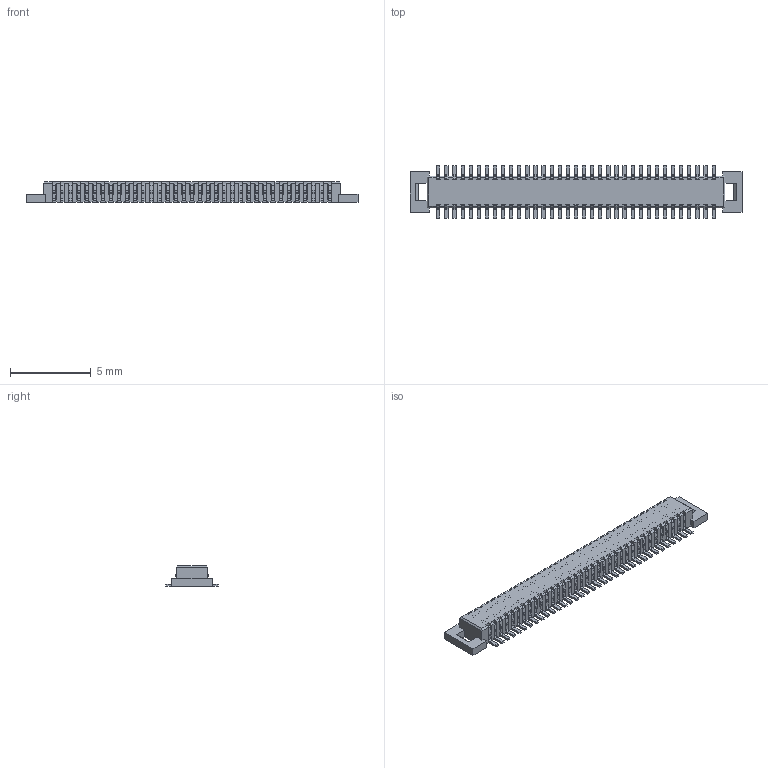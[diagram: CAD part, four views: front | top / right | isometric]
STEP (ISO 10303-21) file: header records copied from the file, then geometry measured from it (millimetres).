
FILE_DESCRIPTION(('CATIA V5 STEP Exchange'),'2;1');
FILE_NAME('F:\黄富鸿\板对板\0.5 单槽\无柱\公座\H1.28\HC-PBB05-1-70-M-H1.28-G1-R-06 (BTB0.5 单槽 公座 立贴 编带)-HCTL.stp','2026-01-20T07:29:25+00:00',('none'),('none'),'CATIA Version 5 Release 20 GA (IN-10)','CATIA V5 STEP AP203','none');
FILE_SCHEMA(('CONFIG_CONTROL_DESIGN'));
Products named in the file (1): Part1
Bounding box: 20.5 x 3.24 x 1.28 mm (x, y, z)
Volume: 45.7 mm3; surface area: 440 mm2
Topology: 71 solids, 71 shells, 3600 faces, 10376 edges, 6916 vertices
Faces by surface type: plane 2900, cylinder 700
Entity records: 107804 total; most frequent: ORIENTED_EDGE 20752, CARTESIAN_POINT 19367, DIRECTION 14512, EDGE_CURVE 10376, VECTOR 8972, LINE 8972, VERTEX_POINT 6916, EDGE_LOOP 3602
